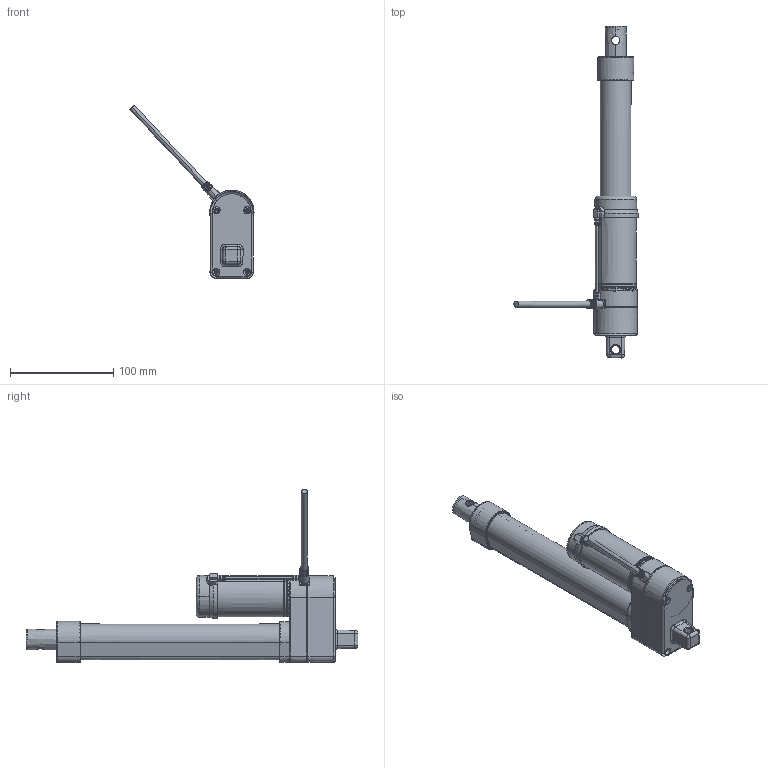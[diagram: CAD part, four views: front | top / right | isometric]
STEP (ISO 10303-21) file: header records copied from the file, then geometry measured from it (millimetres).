
FILE_DESCRIPTION((''),'2;1');
FILE_NAME('MD21_ASM','2016-06-21T',('user'),(''),'PRO/ENGINEER BY PARAMETRIC TECHNOLOGY CORPORATION, 2008090','PRO/ENGINEER BY PARAMETRIC TECHNOLOGY CORPORATION, 2008090','');
FILE_SCHEMA(('CONFIG_CONTROL_DESIGN'));
Products named in the file (4): ZUJIAN_ASM_ASM_ASM_1; ASM0001_ASM_1_ASM; ASM0002_ASM; MD21_ASM
Assembly tree (3 placements, depth 3):
  MD21_ASM
    ASM0001_ASM_1_ASM
      ZUJIAN_ASM_ASM_ASM_1
    ASM0002_ASM
Bounding box: 120.35 x 322 x 167.98 mm (x, y, z)
Surface area: 184923.9 mm2 (no closed solid volume)
Topology: 0 solids, 0 shells, 1204 faces, 6762 edges, 6711 vertices
Faces by surface type: bspline 1144, torus 56, sphere 4
Entity records: 144308 total; most frequent: CARTESIAN_POINT 74789, DIRECTION 11577, TRIMMED_CURVE 9790, VECTOR 8139, LINE 8139, DEFINITIONAL_REPRESENTATION 6664, PCURVE 6664, COMPOSITE_CURVE_SEGMENT 6664
